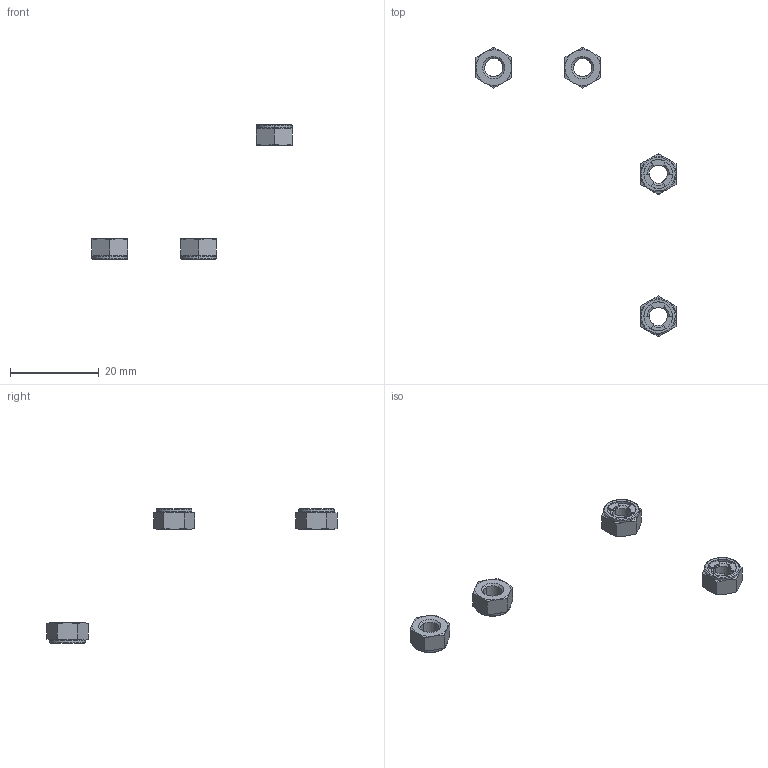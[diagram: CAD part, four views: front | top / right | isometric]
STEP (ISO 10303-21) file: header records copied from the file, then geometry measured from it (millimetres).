
FILE_DESCRIPTION(/* description */ (''),/* implementation_level */ '2;1');
FILE_NAME(/* name */ 'X-7D23~1',/* time_stamp */ '2014-02-14T19:46:50+01:00',/* author */ (''),/* organization */ (''),/* preprocessor_version */ 'ST-DEVELOPER v14',/* originating_system */ '',/* authorisation */ '');
FILE_SCHEMA (('AUTOMOTIVE_DESIGN'));
Length unit declared in the file: millimetre
Products named in the file (1): Document
Bounding box: 45 x 65.24 x 30.21 mm (x, y, z)
Volume: 703.9 mm3; surface area: 1087 mm2
Topology: 4 solids, 4 shells, 216 faces, 520 edges, 312 vertices
Faces by surface type: bspline 124, plane 92
Entity records: 14119 total; most frequent: CARTESIAN_POINT 7641, ORIENTED_EDGE 1040, PCURVE 1040, DEFINITIONAL_REPRESENTATION 1040, B_SPLINE_CURVE_WITH_KNOTS 996, SURFACE_CURVE 520, EDGE_CURVE 520, VERTEX_POINT 312
